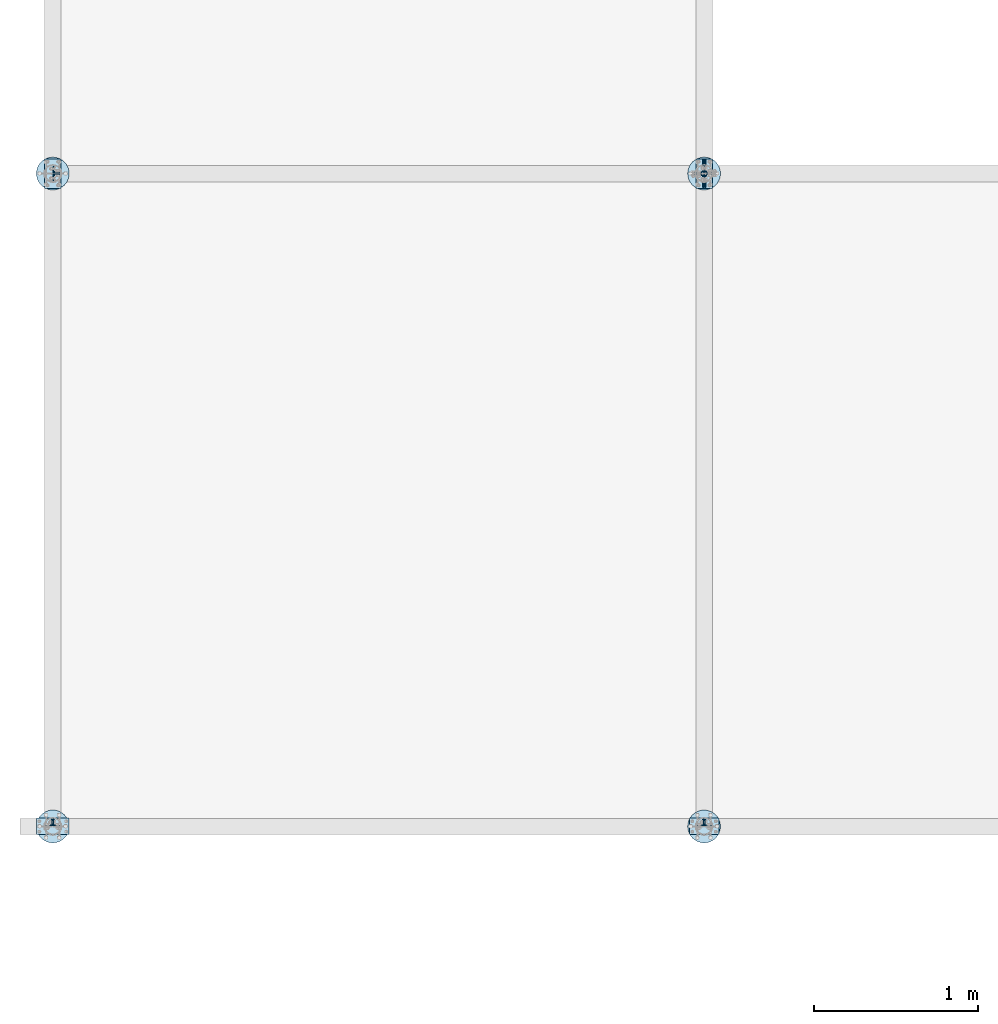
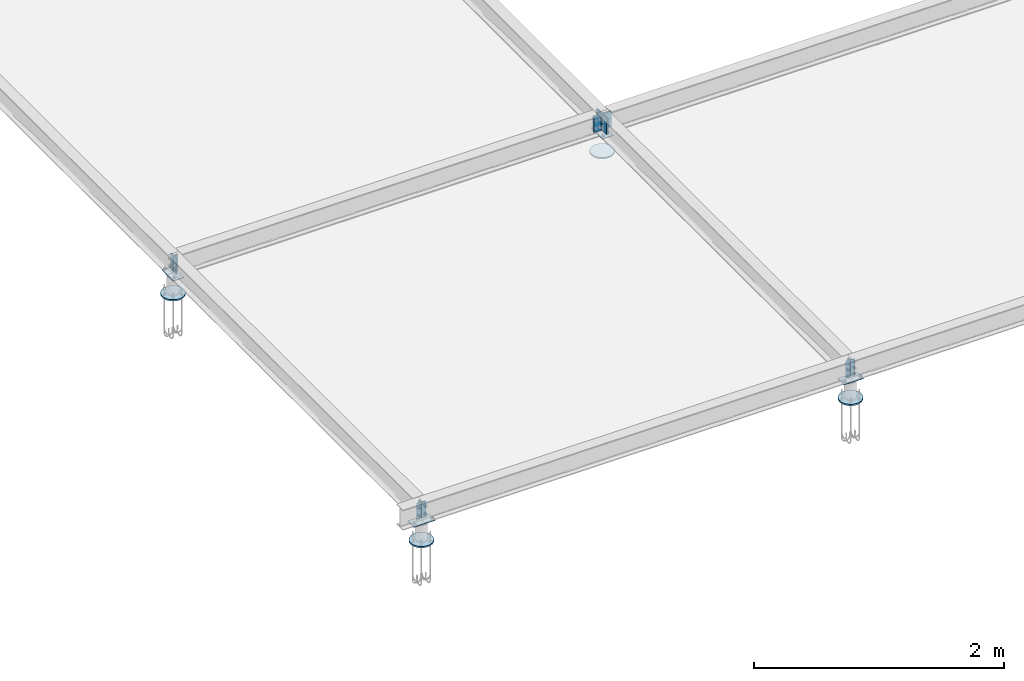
# One storey, part 7 of 84: 18 plates.
"""IFC4 building model written with IfcOpenShell, lengths in metres."""

from ifc_helpers import new_model, si_unit, frame, origin_with_axes, place, context, project, spatial, polyline, outline, extrude, type_object, element, save


model = new_model("IFC4")

# Units and contexts
model_context = context("Model", 3, precision=1e-05, world=origin_with_axes())
ifc_project = project(units=[si_unit("LENGTHUNIT", "METRE"), si_unit("AREAUNIT", "SQUARE_METRE"), si_unit("VOLUMEUNIT", "CUBIC_METRE"), si_unit("MASSUNIT", "GRAM", prefix="KILO"), si_unit("TIMEUNIT", "SECOND"), si_unit("PLANEANGLEUNIT", "RADIAN"), si_unit("SOLIDANGLEUNIT", "STERADIAN"), si_unit("THERMODYNAMICTEMPERATUREUNIT", "DEGREE_CELSIUS")], contexts=[model_context])

# Site, building, storey
placement_1 = place(None, origin_with_axes())
site = spatial("IfcSite", under=ifc_project, at=placement_1, Name="Italia", CompositionType="ELEMENT")
building = spatial("IfcBuilding", under=site, at=placement_1, Name="Tettoia", CompositionType="ELEMENT")
storey_placement = place(None, frame((0.0, 0.0, 4.199999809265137), z_axis=(0.0, 0.0, 1.0), x_axis=(1.0, 0.0, 0.0)))
storey = spatial("IfcBuildingStorey", under=building, at=storey_placement, Name="Storey 1", CompositionType="ELEMENT", Elevation=4.199999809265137)

# Plates
plate_type_1 = type_object("IfcPlateType", Name="Collegamento -007_0107", PredefinedType="SHEET")
placement_2 = place(placement_1, origin_with_axes())
plate_1_placement = place(placement_2, origin_with_axes())
element("IfcPlate", 1, at=plate_1_placement, inside=storey, type_object=plate_type_1, Name="Collegamento -007_0107", context=model_context, shape_type="SweptSolid", body=[
    extrude(outline(polyline([(0.0, 0.0), (-0.00366402, -0.0152582), (-0.00966835, -0.0297556), (-0.0178671, -0.0431351), (-0.0280581, -0.0550672), (-0.0399904, -0.0652583), (-0.0533705, -0.0734572), (-0.0678673, -0.0794622), (-0.0831261, -0.0831254), (-0.0987692, -0.0843565), (-0.114412, -0.0831254), (-0.129671, -0.0794622), (-0.144168, -0.0734572), (-0.157548, -0.0652583), (-0.16948, -0.0550672), (-0.179671, -0.0431351), (-0.18787, -0.0297556), (-0.193874, -0.0152582), (-0.197538, 0.0), (-0.19877, 0.0156434), (-0.197538, 0.0312869), (-0.193874, 0.0465451), (-0.18787, 0.0610425), (-0.179671, 0.074422), (-0.16948, 0.0863541), (-0.157548, 0.0965451), (-0.144168, 0.104744), (-0.129671, 0.110749), (-0.114412, 0.114412), (-0.0987692, 0.115643), (-0.0831261, 0.114412), (-0.0678673, 0.110749), (-0.0533705, 0.104744), (-0.0399904, 0.0965451), (-0.0280581, 0.0863541), (-0.0178671, 0.074422), (-0.00966835, 0.0610425), (-0.00366402, 0.0465451), (0.0, 0.0312869), (0.00123119, 0.0156434), (0.0, 0.0)])), frame((0.115643, 10.0688, 4.0), z_axis=(0.0, 0.0, 1.0), x_axis=(0.0, 1.0, 0.0)), (0.0, 0.0, 1.0), 0.0149999),
])
plate_type_2 = type_object("IfcPlateType", Name="Collegamento -008_0108", PredefinedType="SHEET")
plate_2_placement = place(placement_2, origin_with_axes())
element("IfcPlate", 2, at=plate_2_placement, inside=storey, type_object=plate_type_2, Name="Collegamento -008_0108", context=model_context, shape_type="SweptSolid", body=[
    extrude(outline(polyline([(0.0, 0.0), (-0.00366402, -0.0152583), (-0.00966835, -0.0297556), (-0.0178671, -0.0431347), (-0.0280581, -0.0550671), (-0.0399904, -0.065258), (-0.0533705, -0.0734572), (-0.0678673, -0.0794621), (-0.0831261, -0.0831251), (-0.0987692, -0.0843563), (-0.114412, -0.0831251), (-0.129671, -0.0794621), (-0.144168, -0.0734572), (-0.157548, -0.065258), (-0.16948, -0.0550671), (-0.179671, -0.0431347), (-0.18787, -0.0297556), (-0.193874, -0.0152583), (-0.197538, 0.0), (-0.19877, 0.0156436), (-0.197538, 0.0312872), (-0.193874, 0.0465455), (-0.18787, 0.0610428), (-0.179671, 0.0744219), (-0.16948, 0.0863543), (-0.157548, 0.0965452), (-0.144168, 0.104744), (-0.129671, 0.110749), (-0.114412, 0.114412), (-0.0987692, 0.115644), (-0.0831261, 0.114412), (-0.0678673, 0.110749), (-0.0533705, 0.104744), (-0.0399904, 0.0965452), (-0.0280581, 0.0863543), (-0.0178671, 0.0744219), (-0.00966835, 0.0610428), (-0.00366402, 0.0465455), (0.0, 0.0312872), (0.00123119, 0.0156436), (0.0, 0.0)])), frame((4.08564, 10.0688, 4.0), z_axis=(0.0, 0.0, 1.0), x_axis=(0.0, 1.0, 0.0)), (0.0, 0.0, 1.0), 0.0149999),
])
plate_type_3 = type_object("IfcPlateType", Name="Collegamento -011_0111", PredefinedType="SHEET")
plate_3_placement = place(placement_2, origin_with_axes())
element("IfcPlate", 3, at=plate_3_placement, inside=storey, type_object=plate_type_3, Name="Collegamento -011_0111", context=model_context, shape_type="SweptSolid", body=[
    extrude(outline(polyline([(0.0, 0.0), (-0.00366402, -0.0152582), (-0.00966835, -0.0297556), (-0.0178671, -0.0431351), (-0.0280581, -0.0550672), (-0.0399904, -0.0652583), (-0.0533705, -0.0734572), (-0.0678673, -0.0794622), (-0.0831261, -0.0831254), (-0.0987692, -0.0843565), (-0.114412, -0.0831254), (-0.129671, -0.0794622), (-0.144168, -0.0734572), (-0.157548, -0.0652583), (-0.16948, -0.0550672), (-0.179671, -0.0431351), (-0.18787, -0.0297556), (-0.193874, -0.0152582), (-0.197538, 0.0), (-0.19877, 0.0156434), (-0.197538, 0.0312869), (-0.193874, 0.0465451), (-0.18787, 0.0610425), (-0.179671, 0.074422), (-0.16948, 0.0863541), (-0.157548, 0.0965451), (-0.144168, 0.104744), (-0.129671, 0.110749), (-0.114412, 0.114412), (-0.0987692, 0.115643), (-0.0831261, 0.114412), (-0.0678673, 0.110749), (-0.0533705, 0.104744), (-0.0399904, 0.0965451), (-0.0280581, 0.0863541), (-0.0178671, 0.074422), (-0.00966835, 0.0610425), (-0.00366402, 0.0465451), (0.0, 0.0312869), (0.00123119, 0.0156434), (0.0, 0.0)])), frame((0.115643, 14.0488, 4.0), z_axis=(0.0, 0.0, 1.0), x_axis=(0.0, 1.0, 0.0)), (0.0, 0.0, 1.0), 0.0149999),
])
plate_type_4 = type_object("IfcPlateType", Name="Collegamento -012_0112", PredefinedType="SHEET")
plate_4_placement = place(placement_2, origin_with_axes())
element("IfcPlate", 4, at=plate_4_placement, inside=storey, type_object=plate_type_4, Name="Collegamento -012_0112", context=model_context, shape_type="SweptSolid", body=[
    extrude(outline(polyline([(0.0, 0.0), (-0.00366402, -0.0152583), (-0.00966835, -0.0297556), (-0.0178671, -0.0431347), (-0.0280581, -0.0550671), (-0.0399904, -0.065258), (-0.0533705, -0.0734572), (-0.0678673, -0.0794621), (-0.0831261, -0.0831251), (-0.0987692, -0.0843563), (-0.114412, -0.0831251), (-0.129671, -0.0794621), (-0.144168, -0.0734572), (-0.157548, -0.065258), (-0.16948, -0.0550671), (-0.179671, -0.0431347), (-0.18787, -0.0297556), (-0.193874, -0.0152583), (-0.197538, 0.0), (-0.19877, 0.0156436), (-0.197538, 0.0312872), (-0.193874, 0.0465455), (-0.18787, 0.0610428), (-0.179671, 0.0744219), (-0.16948, 0.0863543), (-0.157548, 0.0965452), (-0.144168, 0.104744), (-0.129671, 0.110749), (-0.114412, 0.114412), (-0.0987692, 0.115644), (-0.0831261, 0.114412), (-0.0678673, 0.110749), (-0.0533705, 0.104744), (-0.0399904, 0.0965452), (-0.0280581, 0.0863543), (-0.0178671, 0.0744219), (-0.00966835, 0.0610428), (-0.00366402, 0.0465455), (0.0, 0.0312872), (0.00123119, 0.0156436), (0.0, 0.0)])), frame((4.08564, 14.0488, 4.0), z_axis=(0.0, 0.0, 1.0), x_axis=(0.0, 1.0, 0.0)), (0.0, 0.0, 1.0), 0.0149999),
])
plate_type_5 = type_object("IfcPlateType", Name="Collegamento 0107_-007", PredefinedType="SHEET")
plate_5_placement = place(placement_2, origin_with_axes())
element("IfcPlate", 5, at=plate_5_placement, inside=storey, type_object=plate_type_5, Name="Collegamento 0107_-007", context=model_context, shape_type="SweptSolid", body=[
    extrude(outline(polyline([(0.0, 0.0), (-0.101, 0.0), (-0.101, 0.2), (0.0, 0.2), (0.0, 0.0)])), frame((0.2, 10.0205, 4.195), z_axis=(-5.960896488e-06, 0.0, 1.0), x_axis=(0.0, 1.0, 0.0)), (0.0, 0.0, 1.0), 0.00499964),
])
plate_type_6 = type_object("IfcPlateType", Name="Collegamento 0107_0111", PredefinedType="SHEET")
plate_6_placement = place(placement_2, origin_with_axes())
element("IfcPlate", 6, at=plate_6_placement, inside=storey, type_object=plate_type_6, Name="Collegamento 0107_0111", context=model_context, shape_type="SweptSolid", body=[
    extrude(outline(polyline([(0.0, 0.0), (0.0, -0.003), (-0.000227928, -0.00414804), (-0.000878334, -0.00512132), (-0.00185204, -0.00577164), (-0.00300026, -0.006), (-0.0279999, -0.006), (-0.0302963, -0.00645672), (-0.0322428, -0.00775736), (-0.0335436, -0.0097039), (-0.0340004, -0.012), (-0.0340004, -0.037), (-0.0342283, -0.038148), (-0.0348787, -0.0391213), (-0.0358515, -0.0397716), (-0.0369997, -0.04), (-0.04, -0.04), (-0.04, 0.0), (0.0, 0.0)])), frame((0.0972, 10.0128, 4.377), z_axis=(0.0, 0.0, -1.0), x_axis=(0.0, 1.0, 0.0)), (0.0, 0.0, 1.0), 0.154),
])
plate_type_7 = type_object("IfcPlateType", Name="Collegamento 0107_0111", PredefinedType="SHEET")
plate_7_placement = place(placement_2, origin_with_axes())
element("IfcPlate", 7, at=plate_7_placement, inside=storey, type_object=plate_type_7, Name="Collegamento 0107_0111", context=model_context, shape_type="SweptSolid", body=[
    extrude(outline(polyline([(0.0, 0.0), (0.00114822, -0.00022836), (0.00212097, -0.000878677), (0.00277138, -0.00185195), (0.00299931, -0.00300001), (0.00299931, -0.028), (0.00345612, -0.0302961), (0.00475693, -0.0322426), (0.00670338, -0.0335433), (0.00899982, -0.034), (0.0339994, -0.034), (0.0351477, -0.0342284), (0.0361214, -0.0348787), (0.0367718, -0.035852), (0.0369997, -0.037), (0.0369997, -0.04), (-0.00300026, -0.04), (-0.00300026, 0.0), (0.0, 0.0)])), frame((0.1428, 9.9758, 4.377), z_axis=(0.0, 0.0, -1.0), x_axis=(0.0, 1.0, 0.0)), (0.0, 0.0, 1.0), 0.154),
])
plate_type_8 = type_object("IfcPlateType", Name="Collegamento 0108_-008", PredefinedType="SHEET")
plate_8_placement = place(placement_2, origin_with_axes())
element("IfcPlate", 8, at=plate_8_placement, inside=storey, type_object=plate_type_8, Name="Collegamento 0108_-008", context=model_context, shape_type="SweptSolid", body=[
    extrude(outline(polyline([(0.0, 0.0), (-0.101, 0.0), (-0.101, 0.18), (0.0, 0.18), (0.0, 0.0)])), frame((4.16, 10.0205, 4.195), z_axis=(0.0, 0.0, 1.0), x_axis=(0.0, 1.0, 0.0)), (0.0, 0.0, 1.0), 0.00500011),
])
plate_type_9 = type_object("IfcPlateType", Name="Collegamento 0108_0112", PredefinedType="SHEET")
plate_9_placement = place(placement_2, origin_with_axes())
element("IfcPlate", 9, at=plate_9_placement, inside=storey, type_object=plate_type_9, Name="Collegamento 0108_0112", context=model_context, shape_type="SweptSolid", body=[
    extrude(outline(polyline([(0.0, 0.0), (0.0, -0.00299978), (-0.000227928, -0.00414801), (-0.000878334, -0.00512123), (-0.00185204, -0.00577164), (-0.00300026, -0.00600004), (-0.0279999, -0.00600004), (-0.0302963, -0.00645685), (-0.0322428, -0.00775719), (-0.0335436, -0.00970411), (-0.0340004, -0.0120001), (-0.0340004, -0.0370002), (-0.0342283, -0.0381479), (-0.0348787, -0.0391212), (-0.0358515, -0.0397716), (-0.0369997, -0.04), (-0.04, -0.04), (-0.04, 0.0), (0.0, 0.0)])), frame((4.0672, 10.0128, 4.377), z_axis=(0.0, 0.0, -1.0), x_axis=(0.0, 1.0, 0.0)), (0.0, 0.0, 1.0), 0.154),
])
plate_type_10 = type_object("IfcPlateType", Name="Collegamento 0108_0112", PredefinedType="SHEET")
plate_10_placement = place(placement_2, origin_with_axes())
element("IfcPlate", 10, at=plate_10_placement, inside=storey, type_object=plate_type_10, Name="Collegamento 0108_0112", context=model_context, shape_type="SweptSolid", body=[
    extrude(outline(polyline([(0.0, 0.0), (0.00114822, -0.000228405), (0.00212097, -0.000878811), (0.00277138, -0.00185204), (0.00299931, -0.00299978), (0.00299931, -0.0279999), (0.00345612, -0.0302958), (0.00475693, -0.0322428), (0.00670338, -0.0335431), (0.00899982, -0.0339999), (0.0339994, -0.0339999), (0.0351477, -0.0342283), (0.0361214, -0.0348787), (0.0367718, -0.035852), (0.0369997, -0.0370002), (0.0369997, -0.04), (-0.00300026, -0.04), (-0.00300026, 0.0), (0.0, 0.0)])), frame((4.1128, 9.9758, 4.377), z_axis=(0.0, 0.0, -1.0), x_axis=(0.0, 1.0, 0.0)), (0.0, 0.0, 1.0), 0.154),
])
plate_type_11 = type_object("IfcPlateType", Name="Collegamento 0111_-011", PredefinedType="SHEET")
plate_11_placement = place(placement_2, origin_with_axes())
element("IfcPlate", 11, at=plate_11_placement, inside=storey, type_object=plate_type_11, Name="Collegamento 0111_-011", context=model_context, shape_type="SweptSolid", body=[
    extrude(outline(polyline([(0.0, 0.0), (-0.18, 0.0), (-0.18, 0.101), (0.0, 0.101), (0.0, 0.0)])), frame((0.1505, 14.04, 4.195), z_axis=(0.0, 0.0, 1.0), x_axis=(0.0, 1.0, 0.0)), (0.0, 0.0, 1.0), 0.00500011),
])
plate_type_12 = type_object("IfcPlateType", Name="Collegamento 0111_0112", PredefinedType="SHEET")
plate_12_placement = place(placement_2, origin_with_axes())
element("IfcPlate", 12, at=plate_12_placement, inside=storey, type_object=plate_type_12, Name="Collegamento 0111_0112", context=model_context, shape_type="SweptSolid", body=[
    extrude(outline(polyline([(0.0, 0.0), (0.00300026, 0.0), (0.00414848, -0.000228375), (0.00512123, -0.000878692), (0.00577164, -0.00185196), (0.00599957, -0.00300001), (0.00599957, -0.028), (0.00645638, -0.0302961), (0.00775719, -0.0322426), (0.00970364, -0.0335433), (0.0120001, -0.034), (0.0369997, -0.034), (0.0381479, -0.0342284), (0.0391216, -0.0348787), (0.039772, -0.035852), (0.04, -0.037), (0.04, -0.04), (0.0, -0.04), (0.0, 0.0)])), frame((0.1428, 13.9528, 4.377), z_axis=(0.0, 0.0, -1.0), x_axis=(0.0, 1.0, 0.0)), (0.0, 0.0, 1.0), 0.154),
])
plate_type_13 = type_object("IfcPlateType", Name="Collegamento 0111_0112", PredefinedType="SHEET")
plate_13_placement = place(placement_2, origin_with_axes())
element("IfcPlate", 13, at=plate_13_placement, inside=storey, type_object=plate_type_13, Name="Collegamento 0111_0112", context=model_context, shape_type="SweptSolid", body=[
    extrude(outline(polyline([(0.0, 0.0), (0.000227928, 0.00114805), (0.000878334, 0.00212132), (0.00185204, 0.00277164), (0.00300026, 0.003), (0.0279999, 0.003), (0.0302963, 0.00345673), (0.0322428, 0.00475736), (0.0335436, 0.0067039), (0.0340004, 0.009), (0.0340004, 0.034), (0.0342283, 0.035148), (0.0348787, 0.0361213), (0.0358515, 0.0367716), (0.0369997, 0.037), (0.04, 0.037), (0.04, -0.003), (0.0, -0.003), (0.0, 0.0)])), frame((0.1058, 13.9072, 4.377), z_axis=(0.0, 0.0, -1.0), x_axis=(0.0, 1.0, 0.0)), (0.0, 0.0, 1.0), 0.154),
])
plate_type_14 = type_object("IfcPlateType", Name="Collegamento 0112_-012", PredefinedType="SHEET")
plate_14_placement = place(placement_2, origin_with_axes())
element("IfcPlate", 14, at=plate_14_placement, inside=storey, type_object=plate_type_14, Name="Collegamento 0112_-012", context=model_context, shape_type="SweptSolid", body=[
    extrude(outline(polyline([(0.0, 0.0), (-0.18, 0.0), (-0.18, 0.101), (0.0, 0.101), (0.0, 0.0)])), frame((4.1205, 14.04, 4.195), z_axis=(0.0, 0.0, 1.0), x_axis=(0.0, 1.0, 0.0)), (0.0, 0.0, 1.0), 0.00500011),
])
plate_type_15 = type_object("IfcPlateType", Name="Collegamento 0112_-016", PredefinedType="SHEET")
plate_15_placement = place(placement_2, origin_with_axes())
element("IfcPlate", 15, at=plate_15_placement, inside=storey, type_object=plate_type_15, Name="Collegamento 0112_-016", context=model_context, shape_type="SweptSolid", body=[
    extrude(outline(polyline([(0.0, 0.0), (0.00599957, 0.0), (0.00599957, -0.0640001), (0.00676155, -0.0678267), (0.00892925, -0.0710711), (0.0121737, -0.0732388), (0.0159998, -0.0739999), (0.0799999, -0.0739999), (0.0799999, -0.0799999), (0.0, -0.0799999), (0.0, 0.0)])), frame((4.1528, 13.9528, 4.377), z_axis=(0.0, 0.0, -1.0), x_axis=(0.0, 1.0, 0.0)), (0.0, 0.0, 1.0), 0.154),
])
plate_type_16 = type_object("IfcPlateType", Name="Collegamento 0112_-016", PredefinedType="SHEET")
plate_16_placement = place(placement_2, origin_with_axes())
element("IfcPlate", 16, at=plate_16_placement, inside=storey, type_object=plate_type_16, Name="Collegamento 0112_-016", context=model_context, shape_type="SweptSolid", body=[
    extrude(outline(polyline([(0.0, 0.0), (0.0640001, 0.0), (0.0678263, 0.000761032), (0.0710707, 0.00292873), (0.0732384, 0.00617313), (0.0740004, 0.00999975), (0.0740004, 0.0739999), (0.0799999, 0.0739999), (0.0799999, -0.00600004), (0.0, -0.00600004), (0.0, 0.0)])), frame((4.0788, 13.8672, 4.377), z_axis=(0.0, 0.0, -1.0), x_axis=(0.0, 1.0, 0.0)), (0.0, 0.0, 1.0), 0.154),
])
plate_type_17 = type_object("IfcPlateType", Name="Collegamento 0112_0111", PredefinedType="SHEET")
plate_17_placement = place(placement_2, origin_with_axes())
element("IfcPlate", 17, at=plate_17_placement, inside=storey, type_object=plate_type_17, Name="Collegamento 0112_0111", context=model_context, shape_type="SweptSolid", body=[
    extrude(outline(polyline([(0.0, 0.0), (-0.00599957, 0.0), (-0.00599957, 0.0640001), (-0.00676155, 0.0678267), (-0.00892925, 0.0710711), (-0.0121737, 0.0732388), (-0.0159998, 0.0739999), (-0.0799999, 0.0739999), (-0.0799999, 0.0799999), (0.0, 0.0799999), (0.0, 0.0)])), frame((3.9872, 13.9472, 4.377), z_axis=(0.0, 0.0, -1.0), x_axis=(0.0, 1.0, 0.0)), (0.0, 0.0, 1.0), 0.154),
])
plate_type_18 = type_object("IfcPlateType", Name="Collegamento 0112_0111", PredefinedType="SHEET")
plate_18_placement = place(placement_2, origin_with_axes())
element("IfcPlate", 18, at=plate_18_placement, inside=storey, type_object=plate_type_18, Name="Collegamento 0112_0111", context=model_context, shape_type="SweptSolid", body=[
    extrude(outline(polyline([(0.0, 0.0), (-0.0640001, 0.0), (-0.0678263, -0.000761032), (-0.0710707, -0.00292873), (-0.0732384, -0.00617313), (-0.0740004, -0.00999975), (-0.0740004, -0.0739999), (-0.0799999, -0.0739999), (-0.0799999, 0.00600004), (0.0, 0.00600004), (0.0, 0.0)])), frame((4.0612, 14.0328, 4.377), z_axis=(0.0, 0.0, -1.0), x_axis=(0.0, 1.0, 0.0)), (0.0, 0.0, 1.0), 0.154),
])

save(model, "model.ifc")
